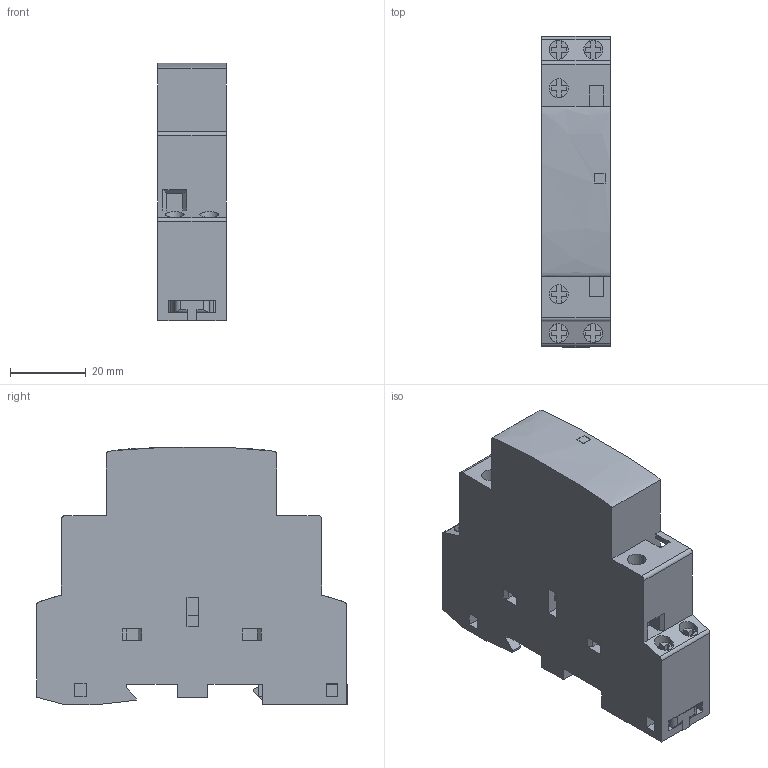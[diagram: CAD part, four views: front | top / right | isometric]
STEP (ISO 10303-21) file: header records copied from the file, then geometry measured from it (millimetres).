
FILE_DESCRIPTION (( 'STEP AP214' ), '1' );
FILE_NAME ('Magneetschakelaar Klein.STEP', '2025-07-29T12:28:36', ( '' ), ( '' ), 'SwSTEP 2.0', 'SolidWorks 2025', '' );
FILE_SCHEMA (( 'AUTOMOTIVE_DESIGN' ));
Length unit declared in the file: millimetre
Products named in the file (3): Magneetschakelaar Klein; CAD #19; Lipje algemeen
Assembly tree (2 placements, depth 2):
  Magneetschakelaar Klein
    CAD #19
    Lipje algemeen
Bounding box: 18.15 x 82.25 x 68.19 mm (x, y, z)
Volume: 78647.7 mm3; surface area: 17117.7 mm2
Topology: 2 solids, 2 shells, 307 faces, 865 edges, 572 vertices
Faces by surface type: plane 268, cylinder 37, bspline 2
Entity records: 9909 total; most frequent: CARTESIAN_POINT 1827, ORIENTED_EDGE 1730, DIRECTION 1557, EDGE_CURVE 865, VECTOR 761, LINE 761, VERTEX_POINT 572, AXIS2_PLACEMENT_3D 398
